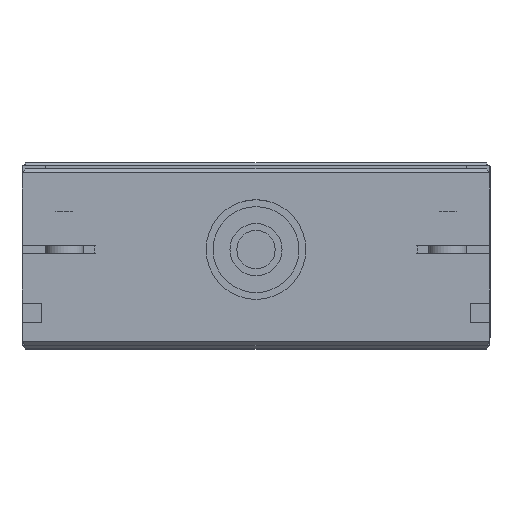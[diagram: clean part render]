
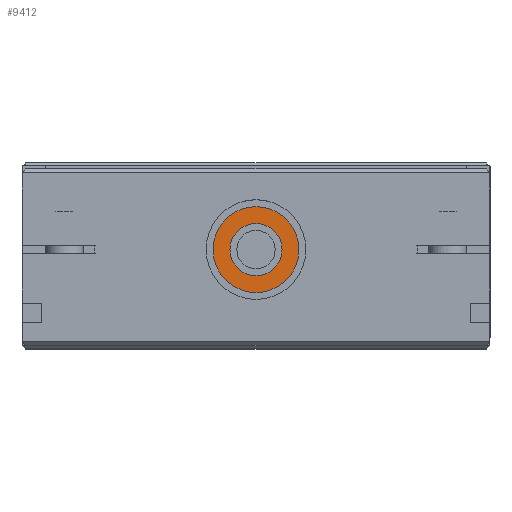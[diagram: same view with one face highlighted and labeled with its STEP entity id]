
A CAD part, top view. The second image highlights one B-rep face of the part: STEP entity #9412.
In plain terms, the highlighted planar face has unit normal (0, 0, 1) as drawn and (1, 0, 0) by its records, which use the part's own axes.
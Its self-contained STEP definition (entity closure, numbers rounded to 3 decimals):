
#1100 = DIRECTION ( 'NONE',  ( 0., 0., 1. ) ) ;
#1399 = AXIS2_PLACEMENT_3D ( 'NONE', #9582, #24954, #12804 ) ;
#1552 = AXIS2_PLACEMENT_3D ( 'NONE', #5397, #37768, #25390 ) ;
#2608 = CIRCLE ( 'NONE', #31163, 11.2 ) ;
#3576 = CIRCLE ( 'NONE', #1552, 11.2 ) ;
#4249 = CARTESIAN_POINT ( 'NONE',  ( 263., 25., 6.8 ) ) ;
#5397 = CARTESIAN_POINT ( 'NONE',  ( 263., 25., 0. ) ) ;
#6249 = EDGE_CURVE ( 'NONE', #25252, #9679, #22298, .T. ) ;
#7677 = DIRECTION ( 'NONE',  ( -1., 0., 0. ) ) ;
#8217 = DIRECTION ( 'NONE',  ( -1., 0., 0. ) ) ;
#8592 = CIRCLE ( 'NONE', #14024, 6.8 ) ;
#8975 = CARTESIAN_POINT ( 'NONE',  ( 263., 25., 11.2 ) ) ;
#9412 = ADVANCED_FACE ( 'NONE', ( #38759, #38360 ), #41747, .F. ) ;
#9582 = CARTESIAN_POINT ( 'NONE',  ( 263., 31.8, 0. ) ) ;
#9679 = VERTEX_POINT ( 'NONE', #4249 ) ;
#10493 = DIRECTION ( 'NONE',  ( -1., 0., 0. ) ) ;
#12804 = DIRECTION ( 'NONE',  ( 0., 0., 1. ) ) ;
#13669 = EDGE_CURVE ( 'NONE', #31561, #37934, #3576, .T. ) ;
#14024 = AXIS2_PLACEMENT_3D ( 'NONE', #23687, #10493, #17730 ) ;
#14206 = ORIENTED_EDGE ( 'NONE', *, *, #39672, .T. ) ;
#17364 = ORIENTED_EDGE ( 'NONE', *, *, #13669, .F. ) ;
#17730 = DIRECTION ( 'NONE',  ( 0., 0., 1. ) ) ;
#18385 = ORIENTED_EDGE ( 'NONE', *, *, #41571, .F. ) ;
#22298 = CIRCLE ( 'NONE', #26356, 6.8 ) ;
#23687 = CARTESIAN_POINT ( 'NONE',  ( 263., 25., 0. ) ) ;
#24954 = DIRECTION ( 'NONE',  ( -1., 0., 0. ) ) ;
#25252 = VERTEX_POINT ( 'NONE', #37610 ) ;
#25390 = DIRECTION ( 'NONE',  ( 0., 0., 1. ) ) ;
#26356 = AXIS2_PLACEMENT_3D ( 'NONE', #30696, #7677, #1100 ) ;
#28448 = DIRECTION ( 'NONE',  ( 0., 0., 1. ) ) ;
#30696 = CARTESIAN_POINT ( 'NONE',  ( 263., 25., 0. ) ) ;
#30805 = CARTESIAN_POINT ( 'NONE',  ( 263., 25., 0. ) ) ;
#31163 = AXIS2_PLACEMENT_3D ( 'NONE', #30805, #8217, #28448 ) ;
#31561 = VERTEX_POINT ( 'NONE', #8975 ) ;
#31688 = CARTESIAN_POINT ( 'NONE',  ( 263., 25., -11.2 ) ) ;
#33576 = EDGE_LOOP ( 'NONE', ( #14206, #35048 ) ) ;
#35048 = ORIENTED_EDGE ( 'NONE', *, *, #6249, .T. ) ;
#37610 = CARTESIAN_POINT ( 'NONE',  ( 263., 25., -6.8 ) ) ;
#37768 = DIRECTION ( 'NONE',  ( -1., 0., 0. ) ) ;
#37934 = VERTEX_POINT ( 'NONE', #31688 ) ;
#38360 = FACE_BOUND ( 'NONE', #33576, .T. ) ;
#38759 = FACE_OUTER_BOUND ( 'NONE', #40568, .T. ) ;
#39672 = EDGE_CURVE ( 'NONE', #9679, #25252, #8592, .T. ) ;
#40568 = EDGE_LOOP ( 'NONE', ( #17364, #18385 ) ) ;
#41571 = EDGE_CURVE ( 'NONE', #37934, #31561, #2608, .T. ) ;
#41747 = PLANE ( 'NONE',  #1399 ) ;
